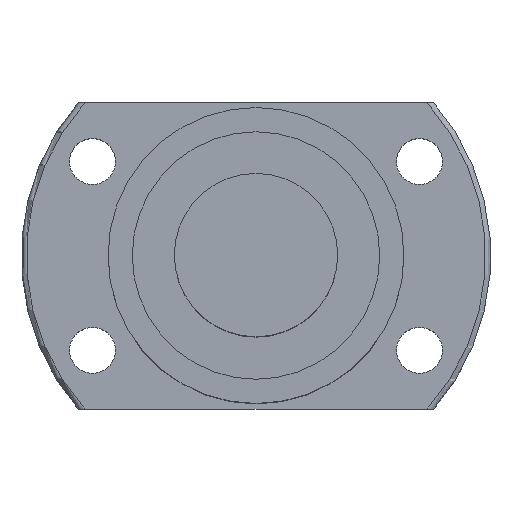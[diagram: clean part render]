
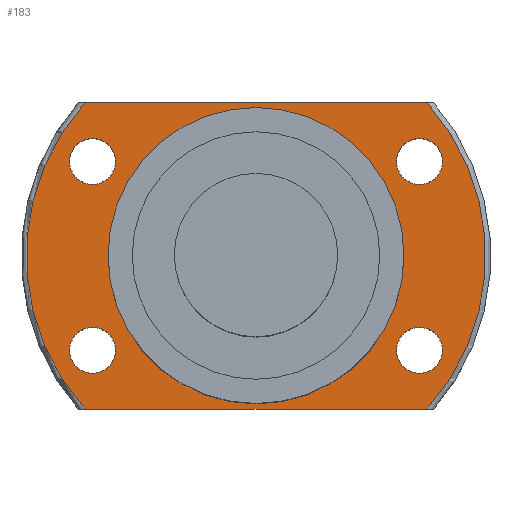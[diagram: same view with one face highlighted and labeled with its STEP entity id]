
A CAD part, top view. The second image highlights one B-rep face of the part: STEP entity #183.
In plain terms, the highlighted planar face has unit normal (0, 0, 1) as drawn and (1, 0, 0) by its records, which use the part's own axes.
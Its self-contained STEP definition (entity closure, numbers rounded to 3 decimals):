
#105=LINE('',#1207,#113);
#106=LINE('',#1211,#114);
#113=VECTOR('',#933,1.);
#114=VECTOR('',#936,1.);
#149=PLANE('',#788);
#183=ADVANCED_FACE('',(#271,#272,#273,#274,#275,#276),#149,.T.);
#271=FACE_BOUND('',#362,.T.);
#272=FACE_BOUND('',#363,.T.);
#273=FACE_BOUND('',#364,.T.);
#274=FACE_BOUND('',#365,.T.);
#275=FACE_BOUND('',#366,.T.);
#276=FACE_BOUND('',#367,.T.);
#362=EDGE_LOOP('',(#469));
#363=EDGE_LOOP('',(#470,#471,#472,#473));
#364=EDGE_LOOP('',(#474));
#365=EDGE_LOOP('',(#475));
#366=EDGE_LOOP('',(#476));
#367=EDGE_LOOP('',(#477));
#469=ORIENTED_EDGE('',*,*,#623,.T.);
#470=ORIENTED_EDGE('',*,*,#647,.T.);
#471=ORIENTED_EDGE('',*,*,#648,.T.);
#472=ORIENTED_EDGE('',*,*,#649,.F.);
#473=ORIENTED_EDGE('',*,*,#638,.T.);
#474=ORIENTED_EDGE('',*,*,#650,.T.);
#475=ORIENTED_EDGE('',*,*,#651,.T.);
#476=ORIENTED_EDGE('',*,*,#652,.T.);
#477=ORIENTED_EDGE('',*,*,#653,.T.);
#563=VERTEX_POINT('',#1072);
#577=VERTEX_POINT('',#1133);
#579=VERTEX_POINT('',#1136);
#585=VERTEX_POINT('',#1208);
#586=VERTEX_POINT('',#1210);
#587=VERTEX_POINT('',#1213);
#588=VERTEX_POINT('',#1215);
#589=VERTEX_POINT('',#1217);
#590=VERTEX_POINT('',#1219);
#623=EDGE_CURVE('',#563,#563,#691,.T.);
#638=EDGE_CURVE('',#579,#577,#705,.T.);
#647=EDGE_CURVE('',#577,#585,#105,.T.);
#648=EDGE_CURVE('',#585,#586,#709,.T.);
#649=EDGE_CURVE('',#579,#586,#106,.T.);
#650=EDGE_CURVE('',#587,#587,#710,.T.);
#651=EDGE_CURVE('',#588,#588,#711,.T.);
#652=EDGE_CURVE('',#589,#589,#712,.T.);
#653=EDGE_CURVE('',#590,#590,#713,.T.);
#691=CIRCLE('',#747,29.);
#705=CIRCLE('',#776,45.);
#709=CIRCLE('',#783,45.);
#710=CIRCLE('',#784,4.5);
#711=CIRCLE('',#785,4.5);
#712=CIRCLE('',#786,4.5);
#713=CIRCLE('',#787,4.5);
#747=AXIS2_PLACEMENT_3D('',#1071,#859,#860);
#776=AXIS2_PLACEMENT_3D('',#1135,#917,#918);
#783=AXIS2_PLACEMENT_3D('',#1209,#934,#935);
#784=AXIS2_PLACEMENT_3D('',#1212,#937,#938);
#785=AXIS2_PLACEMENT_3D('',#1214,#939,#940);
#786=AXIS2_PLACEMENT_3D('',#1216,#941,#942);
#787=AXIS2_PLACEMENT_3D('',#1218,#943,#944);
#788=AXIS2_PLACEMENT_3D('',#1220,#945,#946);
#859=DIRECTION('',(-1.,0.,0.));
#860=DIRECTION('',(0.,1.,0.));
#917=DIRECTION('',(1.,0.,0.));
#918=DIRECTION('',(0.,1.,0.));
#933=DIRECTION('',(0.,0.,1.));
#934=DIRECTION('',(1.,0.,0.));
#935=DIRECTION('',(0.,1.,0.));
#936=DIRECTION('',(0.,0.,1.));
#937=DIRECTION('',(-1.,0.,0.));
#938=DIRECTION('',(0.,-1.,0.));
#939=DIRECTION('',(-1.,0.,0.));
#940=DIRECTION('',(0.,-1.,0.));
#941=DIRECTION('',(-1.,0.,0.));
#942=DIRECTION('',(0.,-1.,0.));
#943=DIRECTION('',(-1.,0.,0.));
#944=DIRECTION('',(0.,-1.,0.));
#945=DIRECTION('',(1.,0.,0.));
#946=DIRECTION('',(0.,1.,0.));
#1071=CARTESIAN_POINT('',(163.804,83.292,0.));
#1072=CARTESIAN_POINT('',(163.804,112.292,0.));
#1133=CARTESIAN_POINT('',(163.804,113.292,-33.541));
#1135=CARTESIAN_POINT('',(163.804,83.292,0.));
#1136=CARTESIAN_POINT('',(163.804,53.292,-33.541));
#1207=CARTESIAN_POINT('',(163.804,113.292,-59.672));
#1208=CARTESIAN_POINT('',(163.804,113.292,33.541));
#1209=CARTESIAN_POINT('',(163.804,83.292,0.));
#1210=CARTESIAN_POINT('',(163.804,53.292,33.541));
#1211=CARTESIAN_POINT('',(163.804,53.292,-59.672));
#1212=CARTESIAN_POINT('',(163.804,101.792,32.043));
#1213=CARTESIAN_POINT('',(163.804,97.292,32.043));
#1214=CARTESIAN_POINT('',(163.804,64.792,32.043));
#1215=CARTESIAN_POINT('',(163.804,60.292,32.043));
#1216=CARTESIAN_POINT('',(163.804,64.792,-32.043));
#1217=CARTESIAN_POINT('',(163.804,60.292,-32.043));
#1218=CARTESIAN_POINT('',(163.804,101.792,-32.043));
#1219=CARTESIAN_POINT('',(163.804,97.292,-32.043));
#1220=CARTESIAN_POINT('',(163.804,112.292,0.));
